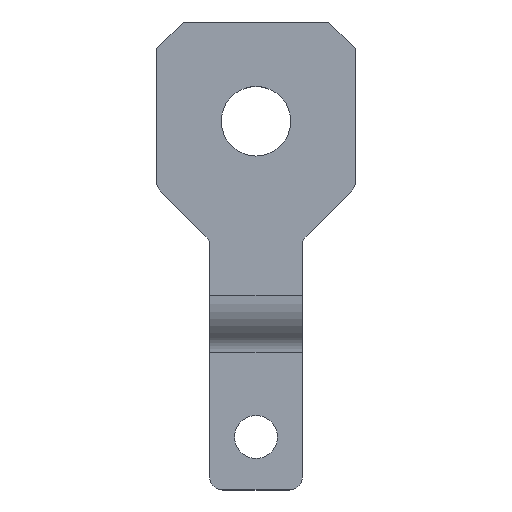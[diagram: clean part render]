
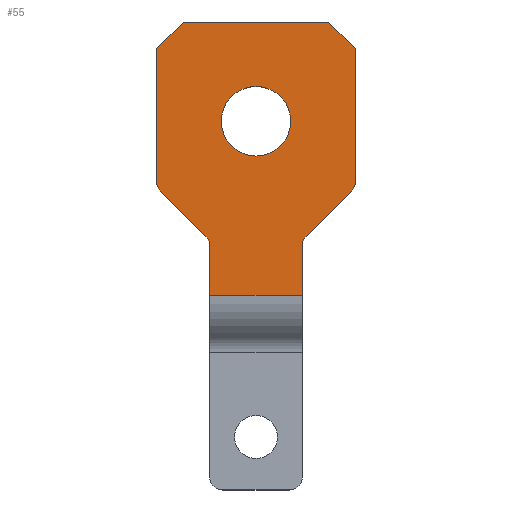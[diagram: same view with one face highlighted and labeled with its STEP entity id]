
A CAD part, top view. The second image highlights one B-rep face of the part: STEP entity #55.
In plain terms, the highlighted planar face has unit normal (0, 0, 1).
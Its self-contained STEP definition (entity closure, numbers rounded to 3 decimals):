
#5 = EDGE_CURVE ( 'NONE', #847, #568, #455, .T. ) ;
#10 = CIRCLE ( 'NONE', #378, 2. ) ;
#26 = VERTEX_POINT ( 'NONE', #1084 ) ;
#36 = CARTESIAN_POINT ( 'NONE',  ( -7.414, 45.114, 9. ) ) ;
#37 = CARTESIAN_POINT ( 'NONE',  ( -8., 45.7, 9. ) ) ;
#43 = CARTESIAN_POINT ( 'NONE',  ( 0., 36.872, 9. ) ) ;
#47 = EDGE_LOOP ( 'NONE', ( #1048, #1175, #1011, #97, #633, #322, #830, #1140, #629, #61, #570, #79, #815, #566 ) ) ;
#50 = VERTEX_POINT ( 'NONE', #62 ) ;
#55 = ADVANCED_FACE ( 'NONE', ( #245, #150 ), #763, .F. ) ;
#57 = LINE ( 'NONE', #737, #524 ) ;
#59 = VERTEX_POINT ( 'NONE', #230 ) ;
#61 = ORIENTED_EDGE ( 'NONE', *, *, #418, .T. ) ;
#62 = CARTESIAN_POINT ( 'NONE',  ( -0.586, 38.286, 9. ) ) ;
#79 = ORIENTED_EDGE ( 'NONE', *, *, #1167, .T. ) ;
#90 = EDGE_CURVE ( 'NONE', #26, #672, #1174, .T. ) ;
#96 = DIRECTION ( 'NONE',  ( -1., 0., 0. ) ) ;
#97 = ORIENTED_EDGE ( 'NONE', *, *, #602, .T. ) ;
#111 = DIRECTION ( 'NONE',  ( 0., 1., 0. ) ) ;
#115 = EDGE_CURVE ( 'NONE', #614, #381, #561, .T. ) ;
#150 = FACE_OUTER_BOUND ( 'NONE', #47, .T. ) ;
#157 = DIRECTION ( 'NONE',  ( -1., 0., 0. ) ) ;
#158 = EDGE_CURVE ( 'NONE', #386, #740, #662, .T. ) ;
#161 = VECTOR ( 'NONE', #1068, 1000. ) ;
#165 = VERTEX_POINT ( 'NONE', #941 ) ;
#169 = DIRECTION ( 'NONE',  ( 0., 0., 1. ) ) ;
#180 = DIRECTION ( 'NONE',  ( 0., 1., 0. ) ) ;
#187 = DIRECTION ( 'NONE',  ( 0., 0., -1. ) ) ;
#189 = DIRECTION ( 'NONE',  ( 0., 0., 1. ) ) ;
#199 = CARTESIAN_POINT ( 'NONE',  ( 16., 36.872, 9. ) ) ;
#202 = EDGE_CURVE ( 'NONE', #381, #969, #1009, .T. ) ;
#218 = AXIS2_PLACEMENT_3D ( 'NONE', #1023, #679, #698 ) ;
#228 = EDGE_CURVE ( 'NONE', #820, #59, #57, .T. ) ;
#230 = CARTESIAN_POINT ( 'NONE',  ( -4., 70.7, 9. ) ) ;
#245 = FACE_BOUND ( 'NONE', #611, .T. ) ;
#248 = CARTESIAN_POINT ( 'NONE',  ( -6., 46.528, 9. ) ) ;
#252 = CARTESIAN_POINT ( 'NONE',  ( 21.414, 45.114, 9. ) ) ;
#255 = DIRECTION ( 'NONE',  ( 0.707, -0.707, 0. ) ) ;
#264 = CARTESIAN_POINT ( 'NONE',  ( -2., 36.872, 9. ) ) ;
#277 = DIRECTION ( 'NONE',  ( -1., 0., 0. ) ) ;
#305 = DIRECTION ( 'NONE',  ( 1., 0., 0. ) ) ;
#322 = ORIENTED_EDGE ( 'NONE', *, *, #476, .T. ) ;
#327 = VECTOR ( 'NONE', #255, 1000. ) ;
#331 = CARTESIAN_POINT ( 'NONE',  ( -8., 46.528, 9. ) ) ;
#332 = VECTOR ( 'NONE', #111, 1000. ) ;
#333 = CARTESIAN_POINT ( 'NONE',  ( -8., 66.7, 9. ) ) ;
#338 = LINE ( 'NONE', #422, #858 ) ;
#375 = CARTESIAN_POINT ( 'NONE',  ( 18., 70.7, 9. ) ) ;
#377 = EDGE_CURVE ( 'NONE', #1051, #993, #10, .T. ) ;
#378 = AXIS2_PLACEMENT_3D ( 'NONE', #199, #1097, #157 ) ;
#381 = VERTEX_POINT ( 'NONE', #1147 ) ;
#386 = VERTEX_POINT ( 'NONE', #43 ) ;
#404 = ORIENTED_EDGE ( 'NONE', *, *, #962, .F. ) ;
#418 = EDGE_CURVE ( 'NONE', #50, #386, #519, .T. ) ;
#419 = CIRCLE ( 'NONE', #218, 5.25 ) ;
#422 = CARTESIAN_POINT ( 'NONE',  ( 0., 29.397, 9. ) ) ;
#425 = AXIS2_PLACEMENT_3D ( 'NONE', #905, #187, #991 ) ;
#455 = CIRCLE ( 'NONE', #537, 2. ) ;
#462 = DIRECTION ( 'NONE',  ( -1., 0., 0. ) ) ;
#468 = DIRECTION ( 'NONE',  ( -0.707, 0.707, 0. ) ) ;
#476 = EDGE_CURVE ( 'NONE', #59, #947, #766, .T. ) ;
#516 = CARTESIAN_POINT ( 'NONE',  ( 0., 37.7, 9. ) ) ;
#519 = CIRCLE ( 'NONE', #1040, 2. ) ;
#524 = VECTOR ( 'NONE', #277, 1000. ) ;
#537 = AXIS2_PLACEMENT_3D ( 'NONE', #248, #1035, #655 ) ;
#539 = VECTOR ( 'NONE', #1077, 1000. ) ;
#541 = CARTESIAN_POINT ( 'NONE',  ( 14., -1.184, 9. ) ) ;
#556 = CARTESIAN_POINT ( 'NONE',  ( 18., 70.7, 9. ) ) ;
#561 = CIRCLE ( 'NONE', #1139, 2. ) ;
#566 = ORIENTED_EDGE ( 'NONE', *, *, #377, .T. ) ;
#568 = VERTEX_POINT ( 'NONE', #36 ) ;
#570 = ORIENTED_EDGE ( 'NONE', *, *, #158, .T. ) ;
#602 = EDGE_CURVE ( 'NONE', #969, #820, #1070, .T. ) ;
#611 = EDGE_LOOP ( 'NONE', ( #666, #404 ) ) ;
#614 = VERTEX_POINT ( 'NONE', #252 ) ;
#616 = VECTOR ( 'NONE', #1007, 1000. ) ;
#625 = EDGE_CURVE ( 'NONE', #947, #847, #894, .T. ) ;
#629 = ORIENTED_EDGE ( 'NONE', *, *, #880, .T. ) ;
#633 = ORIENTED_EDGE ( 'NONE', *, *, #228, .T. ) ;
#655 = DIRECTION ( 'NONE',  ( -1., 0., 0. ) ) ;
#658 = DIRECTION ( 'NONE',  ( 0., -1., 0. ) ) ;
#662 = LINE ( 'NONE', #864, #616 ) ;
#666 = ORIENTED_EDGE ( 'NONE', *, *, #90, .F. ) ;
#672 = VERTEX_POINT ( 'NONE', #896 ) ;
#679 = DIRECTION ( 'NONE',  ( 0., 0., 1. ) ) ;
#698 = DIRECTION ( 'NONE',  ( 1., 0., 0. ) ) ;
#707 = CARTESIAN_POINT ( 'NONE',  ( 20., 46.528, 9. ) ) ;
#709 = CARTESIAN_POINT ( 'NONE',  ( -8., 66.7, 9. ) ) ;
#737 = CARTESIAN_POINT ( 'NONE',  ( -8., 70.7, 9. ) ) ;
#740 = VERTEX_POINT ( 'NONE', #977 ) ;
#742 = CARTESIAN_POINT ( 'NONE',  ( 14.586, 38.286, 9. ) ) ;
#753 = CARTESIAN_POINT ( 'NONE',  ( 22., 66.7, 9. ) ) ;
#763 = PLANE ( 'NONE',  #425 ) ;
#766 = LINE ( 'NONE', #709, #161 ) ;
#789 = AXIS2_PLACEMENT_3D ( 'NONE', #1034, #189, #305 ) ;
#809 = CARTESIAN_POINT ( 'NONE',  ( 14., 37.7, 9. ) ) ;
#812 = DIRECTION ( 'NONE',  ( 1., 0., 0. ) ) ;
#815 = ORIENTED_EDGE ( 'NONE', *, *, #1057, .T. ) ;
#820 = VERTEX_POINT ( 'NONE', #375 ) ;
#830 = ORIENTED_EDGE ( 'NONE', *, *, #625, .T. ) ;
#847 = VERTEX_POINT ( 'NONE', #331 ) ;
#858 = VECTOR ( 'NONE', #812, 1000. ) ;
#864 = CARTESIAN_POINT ( 'NONE',  ( 0., -1.184, 9. ) ) ;
#871 = VECTOR ( 'NONE', #180, 1000. ) ;
#880 = EDGE_CURVE ( 'NONE', #568, #50, #959, .T. ) ;
#894 = LINE ( 'NONE', #37, #1037 ) ;
#896 = CARTESIAN_POINT ( 'NONE',  ( 12.25, 55.7, 9. ) ) ;
#905 = CARTESIAN_POINT ( 'NONE',  ( 0., 69.516, 9. ) ) ;
#919 = CARTESIAN_POINT ( 'NONE',  ( 22., 45.7, 9. ) ) ;
#941 = CARTESIAN_POINT ( 'NONE',  ( 14., 29.397, 9. ) ) ;
#947 = VERTEX_POINT ( 'NONE', #333 ) ;
#948 = DIRECTION ( 'NONE',  ( 0., 0., -1. ) ) ;
#959 = LINE ( 'NONE', #516, #327 ) ;
#962 = EDGE_CURVE ( 'NONE', #672, #26, #419, .T. ) ;
#969 = VERTEX_POINT ( 'NONE', #753 ) ;
#977 = CARTESIAN_POINT ( 'NONE',  ( 0., 29.397, 9. ) ) ;
#991 = DIRECTION ( 'NONE',  ( -1., 0., 0. ) ) ;
#993 = VERTEX_POINT ( 'NONE', #742 ) ;
#1007 = DIRECTION ( 'NONE',  ( 0., -1., 0. ) ) ;
#1009 = LINE ( 'NONE', #919, #332 ) ;
#1011 = ORIENTED_EDGE ( 'NONE', *, *, #202, .T. ) ;
#1023 = CARTESIAN_POINT ( 'NONE',  ( 7., 55.7, 9. ) ) ;
#1034 = CARTESIAN_POINT ( 'NONE',  ( 7., 55.7, 9. ) ) ;
#1035 = DIRECTION ( 'NONE',  ( 0., 0., 1. ) ) ;
#1037 = VECTOR ( 'NONE', #658, 1000. ) ;
#1040 = AXIS2_PLACEMENT_3D ( 'NONE', #264, #948, #462 ) ;
#1048 = ORIENTED_EDGE ( 'NONE', *, *, #1113, .T. ) ;
#1051 = VERTEX_POINT ( 'NONE', #1135 ) ;
#1057 = EDGE_CURVE ( 'NONE', #165, #1051, #1168, .T. ) ;
#1066 = VECTOR ( 'NONE', #468, 1000. ) ;
#1068 = DIRECTION ( 'NONE',  ( -0.707, -0.707, 0. ) ) ;
#1070 = LINE ( 'NONE', #556, #1066 ) ;
#1077 = DIRECTION ( 'NONE',  ( 0.707, 0.707, 0. ) ) ;
#1084 = CARTESIAN_POINT ( 'NONE',  ( 1.75, 55.7, 9. ) ) ;
#1097 = DIRECTION ( 'NONE',  ( 0., 0., -1. ) ) ;
#1113 = EDGE_CURVE ( 'NONE', #993, #614, #1151, .T. ) ;
#1135 = CARTESIAN_POINT ( 'NONE',  ( 14., 36.872, 9. ) ) ;
#1139 = AXIS2_PLACEMENT_3D ( 'NONE', #707, #169, #96 ) ;
#1140 = ORIENTED_EDGE ( 'NONE', *, *, #5, .T. ) ;
#1147 = CARTESIAN_POINT ( 'NONE',  ( 22., 46.528, 9. ) ) ;
#1151 = LINE ( 'NONE', #809, #539 ) ;
#1167 = EDGE_CURVE ( 'NONE', #740, #165, #338, .T. ) ;
#1168 = LINE ( 'NONE', #541, #871 ) ;
#1174 = CIRCLE ( 'NONE', #789, 5.25 ) ;
#1175 = ORIENTED_EDGE ( 'NONE', *, *, #115, .T. ) ;
